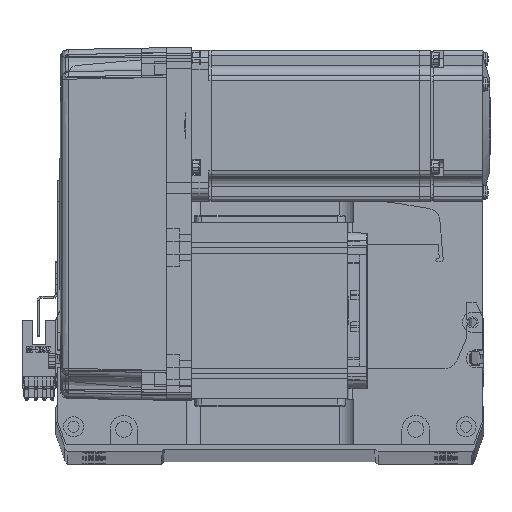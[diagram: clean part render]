
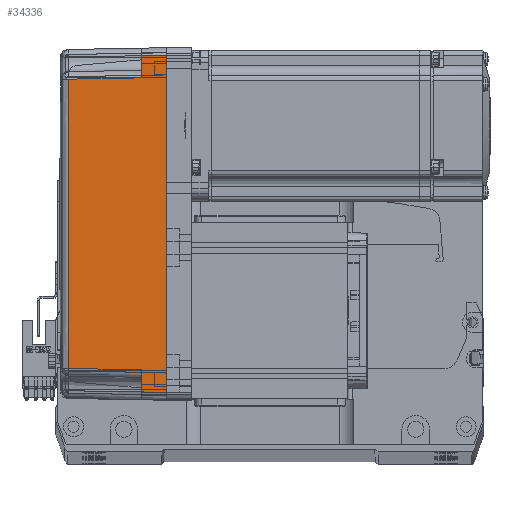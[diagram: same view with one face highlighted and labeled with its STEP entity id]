
A CAD part, top view. The second image highlights one B-rep face of the part: STEP entity #34336.
In plain terms, the highlighted planar face has unit normal (-0.018, 0, 1) as drawn and (0, 1, 0.017) by its records, which use the part's own axes.
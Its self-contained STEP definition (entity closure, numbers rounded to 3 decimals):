
#2673 = FACE_OUTER_BOUND ( 'NONE', #68845, .T. ) ;
#3248 = LINE ( 'NONE', #58098, #27843 ) ;
#6009 = CARTESIAN_POINT ( 'NONE',  ( -67., 36., 0. ) ) ;
#6927 = VECTOR ( 'NONE', #68088, 1000. ) ;
#8620 = LINE ( 'NONE', #25563, #6927 ) ;
#10450 = ORIENTED_EDGE ( 'NONE', *, *, #65182, .T. ) ;
#12290 = CARTESIAN_POINT ( 'NONE',  ( 67.001, 36.001, -0.052 ) ) ;
#12679 = B_SPLINE_CURVE_WITH_KNOTS ( 'NONE', 3,
 ( #63554, #20331, #26236, #64254 ),
 .UNSPECIFIED., .F., .F.,
 ( 4, 4 ),
 ( 0., 1. ),
 .UNSPECIFIED. ) ;
#13814 = CARTESIAN_POINT ( 'NONE',  ( 67., 36., 0. ) ) ;
#14473 = VECTOR ( 'NONE', #18800, 1000. ) ;
#14619 = CARTESIAN_POINT ( 'NONE',  ( -58., 35.825, 10. ) ) ;
#14627 = CARTESIAN_POINT ( 'NONE',  ( 0., 36., 0. ) ) ;
#15944 = CARTESIAN_POINT ( 'NONE',  ( -57.495, 35.32, 38.985 ) ) ;
#16411 = EDGE_CURVE ( 'NONE', #24068, #21093, #3248, .T. ) ;
#17110 = CARTESIAN_POINT ( 'NONE',  ( -58., 35.825, 10. ) ) ;
#17141 = EDGE_CURVE ( 'NONE', #59516, #24068, #12679, .T. ) ;
#17549 = LINE ( 'NONE', #14619, #64073 ) ;
#18101 = CARTESIAN_POINT ( 'NONE',  ( 58., 35.825, 10. ) ) ;
#18591 = DIRECTION ( 'NONE',  ( 0.017, -0.017, 1. ) ) ;
#18800 = DIRECTION ( 'NONE',  ( 1., 0., 0. ) ) ;
#19115 = EDGE_CURVE ( 'NONE', #46485, #36395, #37038, .T. ) ;
#20331 = CARTESIAN_POINT ( 'NONE',  ( -19.165, 35.316, 39.181 ) ) ;
#21093 = VERTEX_POINT ( 'NONE', #18101 ) ;
#23192 = EDGE_CURVE ( 'NONE', #46347, #30075, #8620, .T. ) ;
#23795 = LINE ( 'NONE', #61599, #14473 ) ;
#23815 = CARTESIAN_POINT ( 'NONE',  ( -67., 36., 0. ) ) ;
#24068 = VERTEX_POINT ( 'NONE', #39572 ) ;
#25563 = CARTESIAN_POINT ( 'NONE',  ( 70., 35.825, 10. ) ) ;
#26236 = CARTESIAN_POINT ( 'NONE',  ( 19.165, 35.316, 39.181 ) ) ;
#27475 = CARTESIAN_POINT ( 'NONE',  ( 66.826, 35.825, 10. ) ) ;
#27843 = VECTOR ( 'NONE', #42238, 1000. ) ;
#30075 = VERTEX_POINT ( 'NONE', #17110 ) ;
#33556 = VERTEX_POINT ( 'NONE', #27475 ) ;
#34336 = ADVANCED_FACE ( 'NONE', ( #2673 ), #51212, .T. ) ;
#36395 = VERTEX_POINT ( 'NONE', #13814 ) ;
#37038 = LINE ( 'NONE', #14627, #53133 ) ;
#39572 = CARTESIAN_POINT ( 'NONE',  ( 57.495, 35.32, 38.985 ) ) ;
#42238 = DIRECTION ( 'NONE',  ( 0.017, 0.017, -1. ) ) ;
#43646 = ORIENTED_EDGE ( 'NONE', *, *, #23192, .T. ) ;
#44835 = DIRECTION ( 'NONE',  ( 0., 1., 0.017 ) ) ;
#46347 = VERTEX_POINT ( 'NONE', #68005 ) ;
#46485 = VERTEX_POINT ( 'NONE', #6009 ) ;
#48783 = ORIENTED_EDGE ( 'NONE', *, *, #50973, .T. ) ;
#50074 = DIRECTION ( 'NONE',  ( -0.017, -0.017, 1. ) ) ;
#50668 = EDGE_CURVE ( 'NONE', #36395, #33556, #67366, .T. ) ;
#50973 = EDGE_CURVE ( 'NONE', #30075, #59516, #17549, .T. ) ;
#51212 = PLANE ( 'NONE',  #56635 ) ;
#52206 = DIRECTION ( 'NONE',  ( 0.017, -0.017, 1. ) ) ;
#52991 = VECTOR ( 'NONE', #50074, 1000. ) ;
#53000 = LINE ( 'NONE', #23815, #54697 ) ;
#53133 = VECTOR ( 'NONE', #69209, 1000. ) ;
#54697 = VECTOR ( 'NONE', #18591, 1000. ) ;
#55126 = ORIENTED_EDGE ( 'NONE', *, *, #19115, .F. ) ;
#55137 = ORIENTED_EDGE ( 'NONE', *, *, #16411, .T. ) ;
#56635 = AXIS2_PLACEMENT_3D ( 'NONE', #66811, #44835, #56649 ) ;
#56649 = DIRECTION ( 'NONE',  ( 0., -0.017, 1. ) ) ;
#56945 = ORIENTED_EDGE ( 'NONE', *, *, #50668, .F. ) ;
#58098 = CARTESIAN_POINT ( 'NONE',  ( 57.495, 35.32, 38.985 ) ) ;
#59516 = VERTEX_POINT ( 'NONE', #15944 ) ;
#59586 = ORIENTED_EDGE ( 'NONE', *, *, #17141, .T. ) ;
#61599 = CARTESIAN_POINT ( 'NONE',  ( 70., 35.825, 10. ) ) ;
#61847 = EDGE_CURVE ( 'NONE', #46485, #46347, #53000, .T. ) ;
#63554 = CARTESIAN_POINT ( 'NONE',  ( -57.495, 35.32, 38.985 ) ) ;
#64073 = VECTOR ( 'NONE', #52206, 1000. ) ;
#64254 = CARTESIAN_POINT ( 'NONE',  ( 57.495, 35.32, 38.985 ) ) ;
#65182 = EDGE_CURVE ( 'NONE', #21093, #33556, #23795, .T. ) ;
#65667 = ORIENTED_EDGE ( 'NONE', *, *, #61847, .T. ) ;
#66811 = CARTESIAN_POINT ( 'NONE',  ( 70., 36., 0. ) ) ;
#67366 = LINE ( 'NONE', #12290, #52991 ) ;
#68005 = CARTESIAN_POINT ( 'NONE',  ( -66.826, 35.825, 10. ) ) ;
#68088 = DIRECTION ( 'NONE',  ( 1., 0., 0. ) ) ;
#68845 = EDGE_LOOP ( 'NONE', ( #65667, #43646, #48783, #59586, #55137, #10450, #56945, #55126 ) ) ;
#69209 = DIRECTION ( 'NONE',  ( 1., 0., 0. ) ) ;
